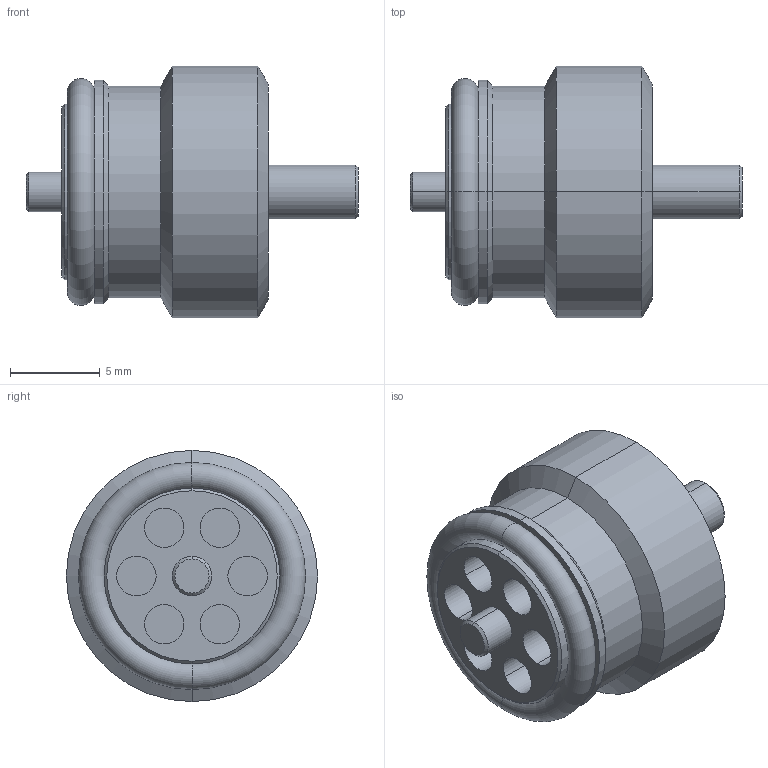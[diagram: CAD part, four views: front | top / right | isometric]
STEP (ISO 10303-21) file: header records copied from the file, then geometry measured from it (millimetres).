
FILE_DESCRIPTION (( 'STEP AP214' ), '1' );
FILE_NAME ('ICSM05-001.STEP', '2024-04-24T11:08:49', ( '' ), ( '' ), 'SwSTEP 2.0', 'SolidWorks 2014', '' );
FILE_SCHEMA (( 'AUTOMOTIVE_DESIGN' ));
Length unit declared in the file: millimetre
Products named in the file (1): ICSM05-001
Bounding box: 18.5 x 14 x 14 mm (x, y, z)
Volume: 1414.9 mm3; surface area: 1084.8 mm2
Topology: 1 solids, 1 shells, 70 faces, 146 edges, 84 vertices
Faces by surface type: cylinder 34, cone 22, plane 12, torus 2
Entity records: 1890 total; most frequent: DIRECTION 362, CARTESIAN_POINT 293, ORIENTED_EDGE 276, AXIS2_PLACEMENT_3D 153, EDGE_CURVE 138, EDGE_LOOP 84, VERTEX_POINT 84, CIRCLE 82
